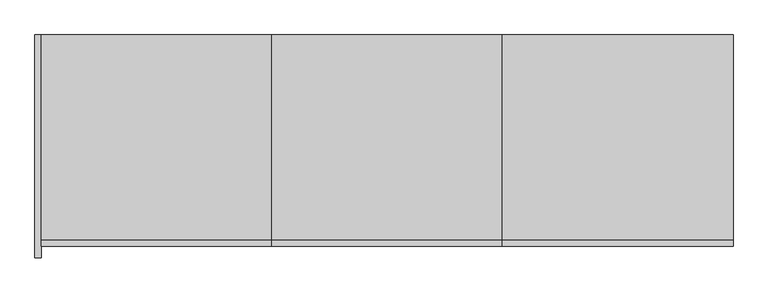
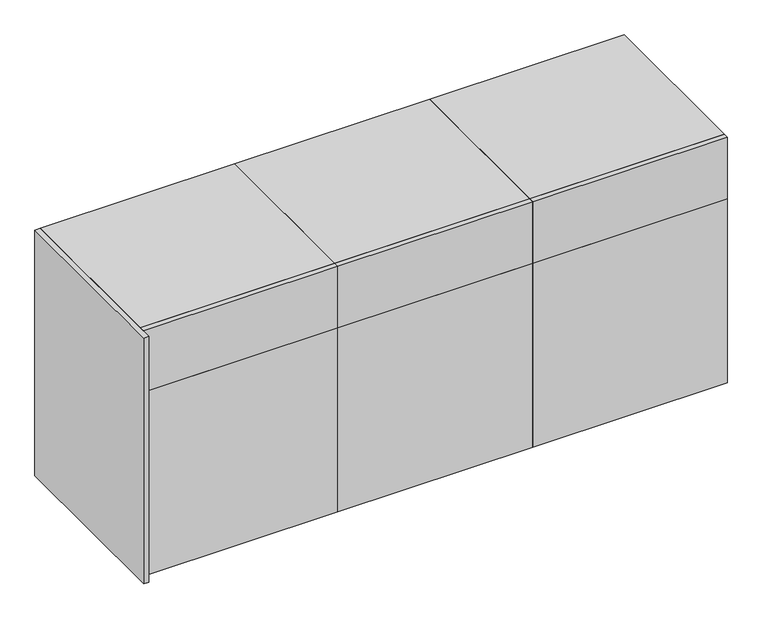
"""IFC4 building model written with IfcOpenShell, lengths in millimetres: furniture geometry, T70 - THESIS-Composizione 2 : T70 - THESIS-Composizione 2."""

from ifc_helpers import new_model, si_unit, frame, origin, place, context, project, spatial, polyline, outline, extrude, source, transform, mapped, element, save


def furniture_1388815f(model_context):
    return source(origin(), model_context, "Body", "SweptSolid", [
        extrude(outline(polyline([(800.0, -534.0), (800.0, -550.0), (200.0, -550.0), (200.0, -534.0), (800.0, -534.0)])), frame((0.0, 0.0, 666.0), z_axis=(0.0, 0.0, 1.0), x_axis=(1.0, 0.0, 0.0)), (0.0, 0.0, 1.0), 200.0),
        extrude(outline(polyline([(800.0, -534.0), (200.0, -534.0), (200.0, 0.0), (800.0, 0.0), (800.0, -534.0)])), frame((0.0, 0.0, 850.0), z_axis=(0.0, 0.0, 1.0), x_axis=(1.0, 0.0, 0.0)), (0.0, 0.0, 1.0), 16.0),
        extrude(outline(polyline([(784.0, 0.0), (784.0, -16.0), (216.0, -16.0), (216.0, 0.0), (784.0, 0.0)])), frame((0.0, 0.0, 682.0), z_axis=(0.0, 0.0, 1.0), x_axis=(1.0, 0.0, 0.0)), (0.0, 0.0, 1.0), 168.0),
        extrude(outline(polyline([(800.0, 0.0), (800.0, -534.0), (784.0, -534.0), (784.0, 0.0), (800.0, 0.0)])), frame((0.0, 0.0, 666.0), z_axis=(0.0, 0.0, 1.0), x_axis=(1.0, 0.0, 0.0)), (0.0, 0.0, 1.0), 184.0),
        extrude(outline(polyline([(216.0, 0.0), (216.0, -534.0), (200.0, -534.0), (200.0, 0.0), (216.0, 0.0)])), frame((0.0, 0.0, 666.0), z_axis=(0.0, 0.0, 1.0), x_axis=(1.0, 0.0, 0.0)), (0.0, 0.0, 1.0), 184.0),
        extrude(outline(polyline([(784.0, 0.0), (784.0, -534.0), (216.0, -534.0), (216.0, 0.0), (784.0, 0.0)])), frame((0.0, 0.0, 666.0), z_axis=(0.0, 0.0, 1.0), x_axis=(1.0, 0.0, 0.0)), (0.0, 0.0, 1.0), 16.0),
        extrude(outline(polyline([(200.0, -534.0), (200.0, -550.0), (-400.0, -550.0), (-400.0, -534.0), (200.0, -534.0)])), frame((0.0, 0.0, 666.0), z_axis=(0.0, 0.0, 1.0), x_axis=(1.0, 0.0, 0.0)), (0.0, 0.0, 1.0), 200.0),
        extrude(outline(polyline([(200.0, -534.0), (-400.0, -534.0), (-400.0, 0.0), (200.0, 0.0), (200.0, -534.0)])), frame((0.0, 0.0, 850.0), z_axis=(0.0, 0.0, 1.0), x_axis=(1.0, 0.0, 0.0)), (0.0, 0.0, 1.0), 16.0),
        extrude(outline(polyline([(184.0, 0.0), (184.0, -16.0), (-384.0, -16.0), (-384.0, 0.0), (184.0, 0.0)])), frame((0.0, 0.0, 682.0), z_axis=(0.0, 0.0, 1.0), x_axis=(1.0, 0.0, 0.0)), (0.0, 0.0, 1.0), 168.0),
        extrude(outline(polyline([(200.0, 0.0), (200.0, -534.0), (184.0, -534.0), (184.0, 0.0), (200.0, 0.0)])), frame((0.0, 0.0, 666.0), z_axis=(0.0, 0.0, 1.0), x_axis=(1.0, 0.0, 0.0)), (0.0, 0.0, 1.0), 184.0),
        extrude(outline(polyline([(-384.0, 0.0), (-384.0, -534.0), (-400.0, -534.0), (-400.0, 0.0), (-384.0, 0.0)])), frame((0.0, 0.0, 666.0), z_axis=(0.0, 0.0, 1.0), x_axis=(1.0, 0.0, 0.0)), (0.0, 0.0, 1.0), 184.0),
        extrude(outline(polyline([(184.0, 0.0), (184.0, -534.0), (-384.0, -534.0), (-384.0, 0.0), (184.0, 0.0)])), frame((0.0, 0.0, 666.0), z_axis=(0.0, 0.0, 1.0), x_axis=(1.0, 0.0, 0.0)), (0.0, 0.0, 1.0), 16.0),
        extrude(outline(polyline([(-400.0, -534.0), (-400.0, -550.0), (-1000.0, -550.0), (-1000.0, -534.0), (-400.0, -534.0)])), frame((0.0, 0.0, 666.0), z_axis=(0.0, 0.0, 1.0), x_axis=(1.0, 0.0, 0.0)), (0.0, 0.0, 1.0), 200.0),
        extrude(outline(polyline([(-400.0, -534.0), (-1000.0, -534.0), (-1000.0, 0.0), (-400.0, 0.0), (-400.0, -534.0)])), frame((0.0, 0.0, 850.0), z_axis=(0.0, 0.0, 1.0), x_axis=(1.0, 0.0, 0.0)), (0.0, 0.0, 1.0), 16.0),
        extrude(outline(polyline([(-416.0, 0.0), (-416.0, -16.0), (-984.0, -16.0), (-984.0, 0.0), (-416.0, 0.0)])), frame((0.0, 0.0, 682.0), z_axis=(0.0, 0.0, 1.0), x_axis=(1.0, 0.0, 0.0)), (0.0, 0.0, 1.0), 168.0),
        extrude(outline(polyline([(-400.0, 0.0), (-400.0, -534.0), (-416.0, -534.0), (-416.0, 0.0), (-400.0, 0.0)])), frame((0.0, 0.0, 666.0), z_axis=(0.0, 0.0, 1.0), x_axis=(1.0, 0.0, 0.0)), (0.0, 0.0, 1.0), 184.0),
        extrude(outline(polyline([(-984.0, 0.0), (-984.0, -534.0), (-1000.0, -534.0), (-1000.0, 0.0), (-984.0, 0.0)])), frame((0.0, 0.0, 666.0), z_axis=(0.0, 0.0, 1.0), x_axis=(1.0, 0.0, 0.0)), (0.0, 0.0, 1.0), 184.0),
        extrude(outline(polyline([(-416.0, 0.0), (-416.0, -534.0), (-984.0, -534.0), (-984.0, 0.0), (-416.0, 0.0)])), frame((0.0, 0.0, 666.0), z_axis=(0.0, 0.0, 1.0), x_axis=(1.0, 0.0, 0.0)), (0.0, 0.0, 1.0), 16.0),
        extrude(outline(polyline([(800.0, -534.0), (800.0, -550.0), (200.0, -550.0), (200.0, -534.0), (800.0, -534.0)])), frame((0.0, 0.0, 66.0), z_axis=(0.0, 0.0, 1.0), x_axis=(1.0, 0.0, 0.0)), (0.0, 0.0, 1.0), 600.0),
        extrude(outline(polyline([(800.0, -534.0), (200.0, -534.0), (200.0, 0.0), (800.0, 0.0), (800.0, -534.0)])), frame((0.0, 0.0, 650.0), z_axis=(0.0, 0.0, 1.0), x_axis=(1.0, 0.0, 0.0)), (0.0, 0.0, 1.0), 16.0),
        extrude(outline(polyline([(784.0, 0.0), (784.0, -16.0), (216.0, -16.0), (216.0, 0.0), (784.0, 0.0)])), frame((0.0, 0.0, 82.0), z_axis=(0.0, 0.0, 1.0), x_axis=(1.0, 0.0, 0.0)), (0.0, 0.0, 1.0), 568.0),
        extrude(outline(polyline([(800.0, 0.0), (800.0, -534.0), (784.0, -534.0), (784.0, 0.0), (800.0, 0.0)])), frame((0.0, 0.0, 66.0), z_axis=(0.0, 0.0, 1.0), x_axis=(1.0, 0.0, 0.0)), (0.0, 0.0, 1.0), 584.0),
        extrude(outline(polyline([(216.0, 0.0), (216.0, -534.0), (200.0, -534.0), (200.0, 0.0), (216.0, 0.0)])), frame((0.0, 0.0, 66.0), z_axis=(0.0, 0.0, 1.0), x_axis=(1.0, 0.0, 0.0)), (0.0, 0.0, 1.0), 584.0),
        extrude(outline(polyline([(784.0, 0.0), (784.0, -534.0), (216.0, -534.0), (216.0, 0.0), (784.0, 0.0)])), frame((0.0, 0.0, 66.0), z_axis=(0.0, 0.0, 1.0), x_axis=(1.0, 0.0, 0.0)), (0.0, 0.0, 1.0), 16.0),
        extrude(outline(polyline([(200.0, -534.0), (200.0, -550.0), (-400.0, -550.0), (-400.0, -534.0), (200.0, -534.0)])), frame((0.0, 0.0, 66.0), z_axis=(0.0, 0.0, 1.0), x_axis=(1.0, 0.0, 0.0)), (0.0, 0.0, 1.0), 600.0),
        extrude(outline(polyline([(200.0, -534.0), (-400.0, -534.0), (-400.0, 0.0), (200.0, 0.0), (200.0, -534.0)])), frame((0.0, 0.0, 650.0), z_axis=(0.0, 0.0, 1.0), x_axis=(1.0, 0.0, 0.0)), (0.0, 0.0, 1.0), 16.0),
        extrude(outline(polyline([(184.0, 0.0), (184.0, -16.0), (-384.0, -16.0), (-384.0, 0.0), (184.0, 0.0)])), frame((0.0, 0.0, 82.0), z_axis=(0.0, 0.0, 1.0), x_axis=(1.0, 0.0, 0.0)), (0.0, 0.0, 1.0), 568.0),
        extrude(outline(polyline([(200.0, 0.0), (200.0, -534.0), (184.0, -534.0), (184.0, 0.0), (200.0, 0.0)])), frame((0.0, 0.0, 66.0), z_axis=(0.0, 0.0, 1.0), x_axis=(1.0, 0.0, 0.0)), (0.0, 0.0, 1.0), 584.0),
        extrude(outline(polyline([(-384.0, 0.0), (-384.0, -534.0), (-400.0, -534.0), (-400.0, 0.0), (-384.0, 0.0)])), frame((0.0, 0.0, 66.0), z_axis=(0.0, 0.0, 1.0), x_axis=(1.0, 0.0, 0.0)), (0.0, 0.0, 1.0), 584.0),
        extrude(outline(polyline([(184.0, 0.0), (184.0, -534.0), (-384.0, -534.0), (-384.0, 0.0), (184.0, 0.0)])), frame((0.0, 0.0, 66.0), z_axis=(0.0, 0.0, 1.0), x_axis=(1.0, 0.0, 0.0)), (0.0, 0.0, 1.0), 16.0),
        extrude(outline(polyline([(-400.0, -534.0), (-400.0, -550.0), (-1000.0, -550.0), (-1000.0, -534.0), (-400.0, -534.0)])), frame((0.0, 0.0, 66.0), z_axis=(0.0, 0.0, 1.0), x_axis=(1.0, 0.0, 0.0)), (0.0, 0.0, 1.0), 600.0),
        extrude(outline(polyline([(-400.0, -534.0), (-1000.0, -534.0), (-1000.0, 0.0), (-400.0, 0.0), (-400.0, -534.0)])), frame((0.0, 0.0, 650.0), z_axis=(0.0, 0.0, 1.0), x_axis=(1.0, 0.0, 0.0)), (0.0, 0.0, 1.0), 16.0),
        extrude(outline(polyline([(-416.0, 0.0), (-416.0, -16.0), (-984.0, -16.0), (-984.0, 0.0), (-416.0, 0.0)])), frame((0.0, 0.0, 82.0), z_axis=(0.0, 0.0, 1.0), x_axis=(1.0, 0.0, 0.0)), (0.0, 0.0, 1.0), 568.0),
        extrude(outline(polyline([(-400.0, 0.0), (-400.0, -534.0), (-416.0, -534.0), (-416.0, 0.0), (-400.0, 0.0)])), frame((0.0, 0.0, 66.0), z_axis=(0.0, 0.0, 1.0), x_axis=(1.0, 0.0, 0.0)), (0.0, 0.0, 1.0), 584.0),
        extrude(outline(polyline([(-984.0, 0.0), (-984.0, -534.0), (-1000.0, -534.0), (-1000.0, 0.0), (-984.0, 0.0)])), frame((0.0, 0.0, 66.0), z_axis=(0.0, 0.0, 1.0), x_axis=(1.0, 0.0, 0.0)), (0.0, 0.0, 1.0), 584.0),
        extrude(outline(polyline([(-416.0, 0.0), (-416.0, -534.0), (-984.0, -534.0), (-984.0, 0.0), (-416.0, 0.0)])), frame((0.0, 0.0, 66.0), z_axis=(0.0, 0.0, 1.0), x_axis=(1.0, 0.0, 0.0)), (0.0, 0.0, 1.0), 16.0),
        extrude(outline(polyline([(-1000.0, 0.0), (-1000.0, -580.0), (-1016.0, -580.0), (-1016.0, 0.0), (-1000.0, 0.0)])), frame((0.0, 0.0, 66.0), z_axis=(0.0, 0.0, 1.0), x_axis=(1.0, 0.0, 0.0)), (0.0, 0.0, 1.0), 800.0),
    ])


if __name__ == "__main__":
    model = new_model("IFC4")
    model_context = context("Model", 3, world=origin())
    ifc_project = project(units=[si_unit("LENGTHUNIT", "METRE", prefix="MILLI")], contexts=[model_context])
    site = spatial("IfcSite", under=ifc_project)
    building = spatial("IfcBuilding", under=site)
    placement = place(None, origin())
    furniture_shape = furniture_1388815f(model_context)
    element("IfcFurniture", 1, ObjectType="T70 - THESIS-Composizione 2 : T70 - THESIS-Composizione 2", at=placement, inside=building, context=model_context, shape_type="MappedRepresentation", body=[
        mapped(furniture_shape, transform((0.0, 0.0, 0.0), x_axis=(1.0, 0.0, 0.0), y_axis=(0.0, 1.0, 0.0), z_axis=(0.0, 0.0, 1.0))),
    ])
    save(model, "model.ifc")
